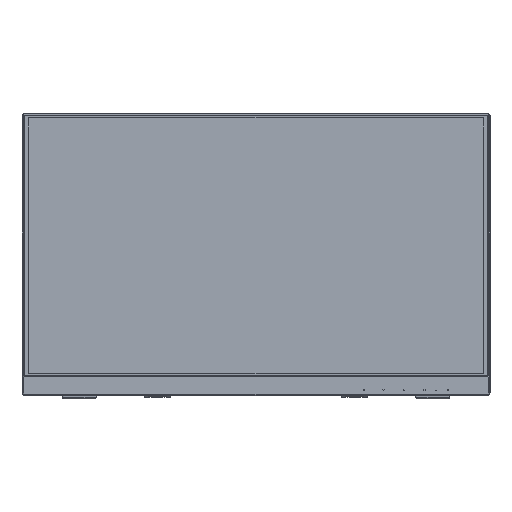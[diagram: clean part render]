
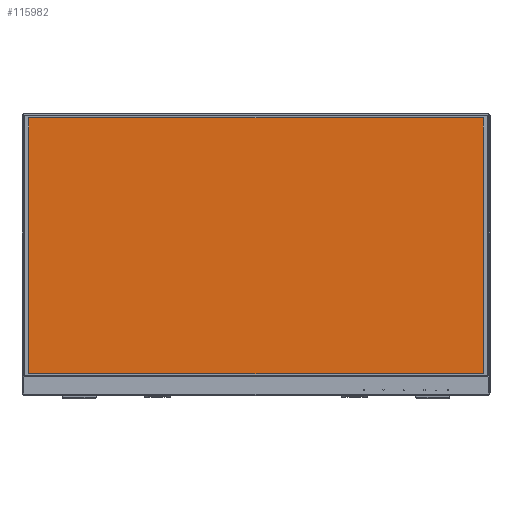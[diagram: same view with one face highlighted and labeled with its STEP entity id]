
A CAD part, top view. The second image highlights one B-rep face of the part: STEP entity #115982.
In plain terms, the highlighted planar face has unit normal (0, 0, 1).
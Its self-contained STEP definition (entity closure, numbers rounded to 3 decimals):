
#10067 = EDGE_CURVE ( 'NONE', #16405, #284108, #133683, .T. ) ;
#16405 = VERTEX_POINT ( 'NONE', #348860 ) ;
#37373 = VERTEX_POINT ( 'NONE', #207503 ) ;
#90263 = EDGE_CURVE ( 'NONE', #284108, #294868, #306467, .T. ) ;
#90886 = CARTESIAN_POINT ( 'NONE',  ( -238.32, -132.35, -0.01 ) ) ;
#99198 = DIRECTION ( 'NONE',  ( 0., 1., 0. ) ) ;
#115982 = ADVANCED_FACE ( 'NONE', ( #440591 ), #431060, .T. ) ;
#133683 = LINE ( 'NONE', #202115, #227961 ) ;
#154486 = CARTESIAN_POINT ( 'NONE',  ( 238.32, -132.35, -0.01 ) ) ;
#178954 = LINE ( 'NONE', #327565, #484550 ) ;
#192870 = ORIENTED_EDGE ( 'NONE', *, *, #10067, .T. ) ;
#202115 = CARTESIAN_POINT ( 'NONE',  ( -238.32, 135.76, -0.01 ) ) ;
#203743 = DIRECTION ( 'NONE',  ( 0., -1., 0. ) ) ;
#207503 = CARTESIAN_POINT ( 'NONE',  ( 238.32, 135.76, -0.01 ) ) ;
#212279 = CARTESIAN_POINT ( 'NONE',  ( 0., 0., -0.01 ) ) ;
#227961 = VECTOR ( 'NONE', #203743, 1000. ) ;
#243397 = DIRECTION ( 'NONE',  ( -1., 0., 0. ) ) ;
#243726 = DIRECTION ( 'NONE',  ( 1., 0., 0. ) ) ;
#245009 = CARTESIAN_POINT ( 'NONE',  ( -238.32, 135.76, -0.01 ) ) ;
#256322 = LINE ( 'NONE', #245009, #273852 ) ;
#256614 = ORIENTED_EDGE ( 'NONE', *, *, #90263, .T. ) ;
#273852 = VECTOR ( 'NONE', #243397, 1000. ) ;
#278838 = ORIENTED_EDGE ( 'NONE', *, *, #442614, .T. ) ;
#284108 = VERTEX_POINT ( 'NONE', #90886 ) ;
#294868 = VERTEX_POINT ( 'NONE', #154486 ) ;
#306467 = LINE ( 'NONE', #444341, #435540 ) ;
#327565 = CARTESIAN_POINT ( 'NONE',  ( 238.32, 135.76, -0.01 ) ) ;
#333347 = EDGE_LOOP ( 'NONE', ( #192870, #256614, #470050, #278838 ) ) ;
#348860 = CARTESIAN_POINT ( 'NONE',  ( -238.32, 135.76, -0.01 ) ) ;
#364785 = AXIS2_PLACEMENT_3D ( 'NONE', #212279, #473661, #243726 ) ;
#370355 = DIRECTION ( 'NONE',  ( 1., 0., 0. ) ) ;
#431060 = PLANE ( 'NONE',  #364785 ) ;
#435540 = VECTOR ( 'NONE', #370355, 1000. ) ;
#440591 = FACE_OUTER_BOUND ( 'NONE', #333347, .T. ) ;
#442614 = EDGE_CURVE ( 'NONE', #37373, #16405, #256322, .T. ) ;
#444341 = CARTESIAN_POINT ( 'NONE',  ( -238.32, -132.35, -0.01 ) ) ;
#470050 = ORIENTED_EDGE ( 'NONE', *, *, #474684, .T. ) ;
#473661 = DIRECTION ( 'NONE',  ( 0., 0., 1. ) ) ;
#474684 = EDGE_CURVE ( 'NONE', #294868, #37373, #178954, .T. ) ;
#484550 = VECTOR ( 'NONE', #99198, 1000. ) ;
